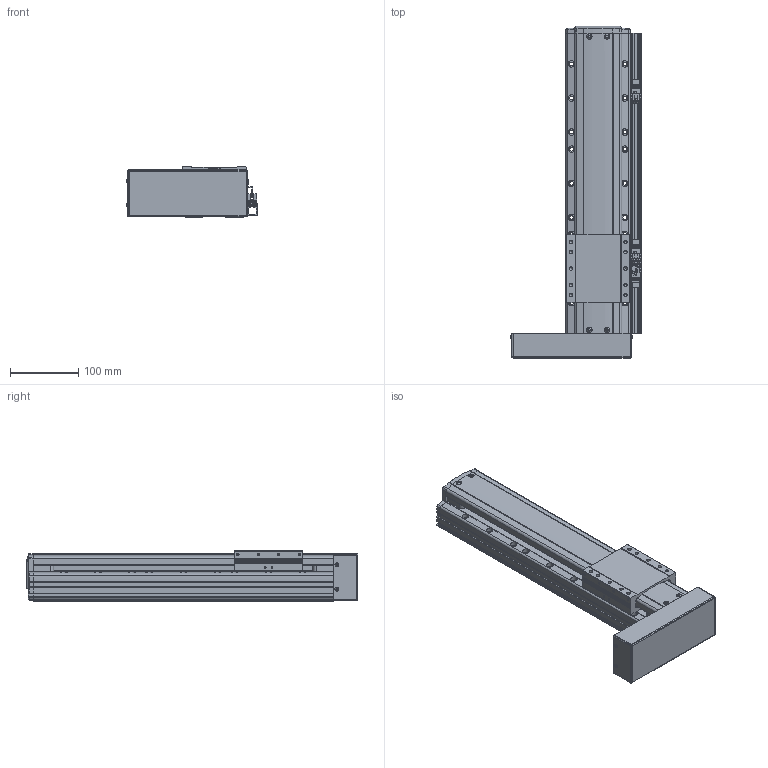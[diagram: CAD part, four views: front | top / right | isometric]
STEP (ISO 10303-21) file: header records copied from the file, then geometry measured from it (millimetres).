
FILE_DESCRIPTION(('STEP AP214'),'1');
FILE_NAME('Z:/Web/3D/PSA95/STP/PSA95-250 (3D)/PSA95ㅁㅁ-250PL+3SR.stp','2014-07-03T00:03:36',(' '),(' '),'Spatial InterOp 3D',' ',' ');
FILE_SCHEMA(('automotive_design'));
Length unit declared in the file: millimetre
Products named in the file (41): BASE; RRCV; 스크루 : Round - M4.0 x 10.0; 너트 : Square - M10.0 x 220.7419; RR1500; FRCV-090; 스크루 : Round - M4.0 x 6.0; SLBL-PA90; MOTOR PLATE COVER; 스크루 : Round - M3.0 x 6.0; EE-SX674; SBK-SX674-352; M3.0 x 6.0; SRL-16x17-380L; SGD-PA95; 스크루 : Round - M3.0 x 8.0
Bounding box: 192.06 x 486.5 x 74 mm (x, y, z)
Volume: 2947900.3 mm3; surface area: 386189.4 mm2
Topology: 41 solids, 41 shells, 2384 faces, 6354 edges, 4082 vertices
Faces by surface type: plane 1404, cylinder 667, cone 213, sphere 62, bspline 24, torus 14
Entity records: 95648 total; most frequent: CARTESIAN_POINT 15856, DIRECTION 12636, ORIENTED_EDGE 12452, EDGE_CURVE 6226, LINE 4284, VECTOR 4284, AXIS2_PLACEMENT_3D 4176, VERTEX_POINT 4082
